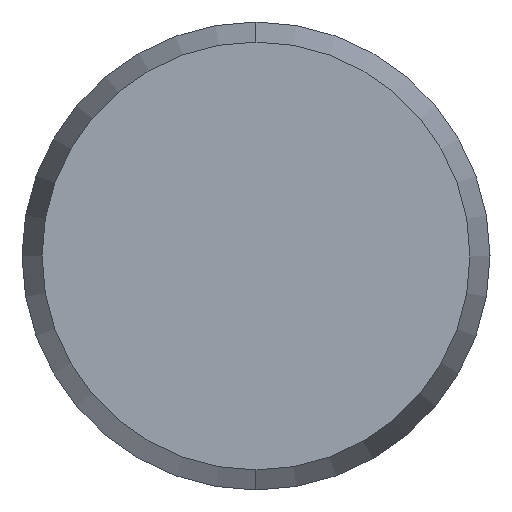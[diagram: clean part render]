
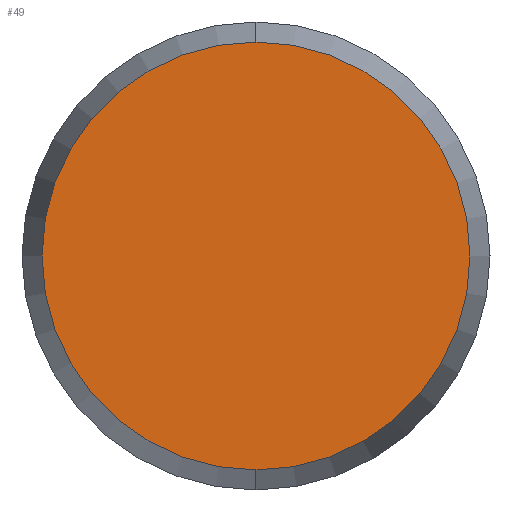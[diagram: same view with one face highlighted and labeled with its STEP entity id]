
A CAD part, left-side view. The second image highlights one B-rep face of the part: STEP entity #49.
In plain terms, the highlighted planar face has unit normal (-1, 0, 0).
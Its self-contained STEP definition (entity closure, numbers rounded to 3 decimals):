
#45 = EDGE_CURVE ( 'NONE', #59, #58, #118, .T. ) ;
#48 = EDGE_LOOP ( 'NONE', ( #50, #51 ) ) ;
#49 = ADVANCED_FACE ( 'NONE', ( #113 ), #112, .F. ) ;
#50 = ORIENTED_EDGE ( 'NONE', *, *, #57, .F. ) ;
#51 = ORIENTED_EDGE ( 'NONE', *, *, #45, .F. ) ;
#57 = EDGE_CURVE ( 'NONE', #58, #59, #104, .T. ) ;
#58 = VERTEX_POINT ( 'NONE', #96 ) ;
#59 = VERTEX_POINT ( 'NONE', #95 ) ;
#95 = CARTESIAN_POINT ( 'NONE',  ( -27.5, 0., -2.286 ) ) ;
#96 = CARTESIAN_POINT ( 'NONE',  ( -27.5, 0., 2.286 ) ) ;
#97 = DIRECTION ( 'NONE',  ( 0., 0., -1. ) ) ;
#98 = DIRECTION ( 'NONE',  ( 1., 0., 0. ) ) ;
#99 = CARTESIAN_POINT ( 'NONE',  ( -27.5, 0., 0. ) ) ;
#100 = AXIS2_PLACEMENT_3D ( 'NONE', #99, #98, #97 ) ;
#104 = CIRCLE ( 'NONE', #100, 2.286 ) ;
#107 = DIRECTION ( 'NONE',  ( 0., 0., -1. ) ) ;
#108 = DIRECTION ( 'NONE',  ( 1., 0., 0. ) ) ;
#109 = CARTESIAN_POINT ( 'NONE',  ( -27.5, 0., 0. ) ) ;
#111 = AXIS2_PLACEMENT_3D ( 'NONE', #109, #108, #107 ) ;
#112 = PLANE ( 'NONE',  #111 ) ;
#113 = FACE_OUTER_BOUND ( 'NONE', #48, .T. ) ;
#114 = DIRECTION ( 'NONE',  ( 0., 0., -1. ) ) ;
#115 = DIRECTION ( 'NONE',  ( 1., 0., 0. ) ) ;
#116 = CARTESIAN_POINT ( 'NONE',  ( -27.5, 0., 0. ) ) ;
#117 = AXIS2_PLACEMENT_3D ( 'NONE', #116, #115, #114 ) ;
#118 = CIRCLE ( 'NONE', #117, 2.286 ) ;
